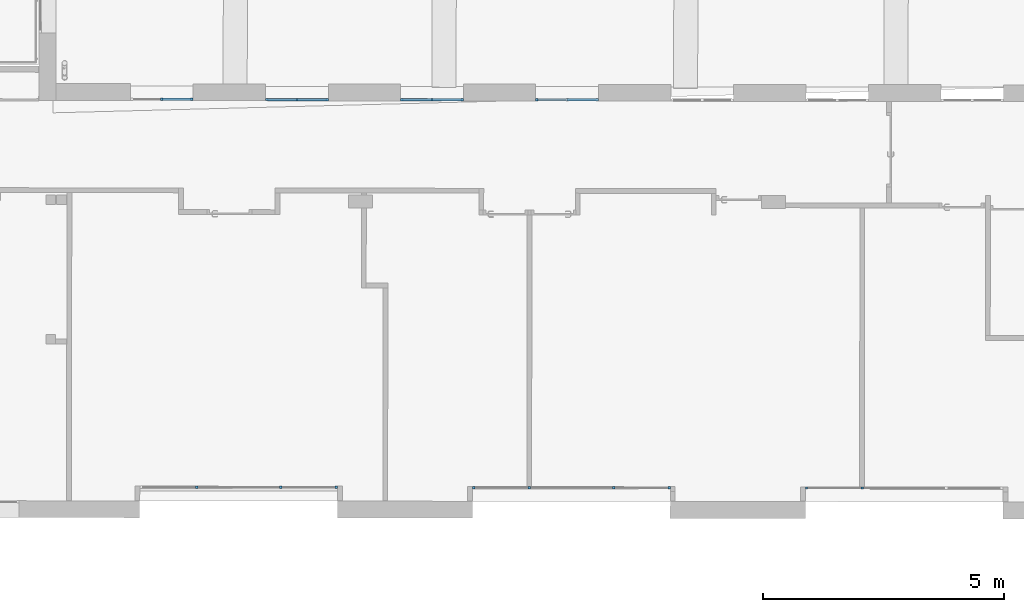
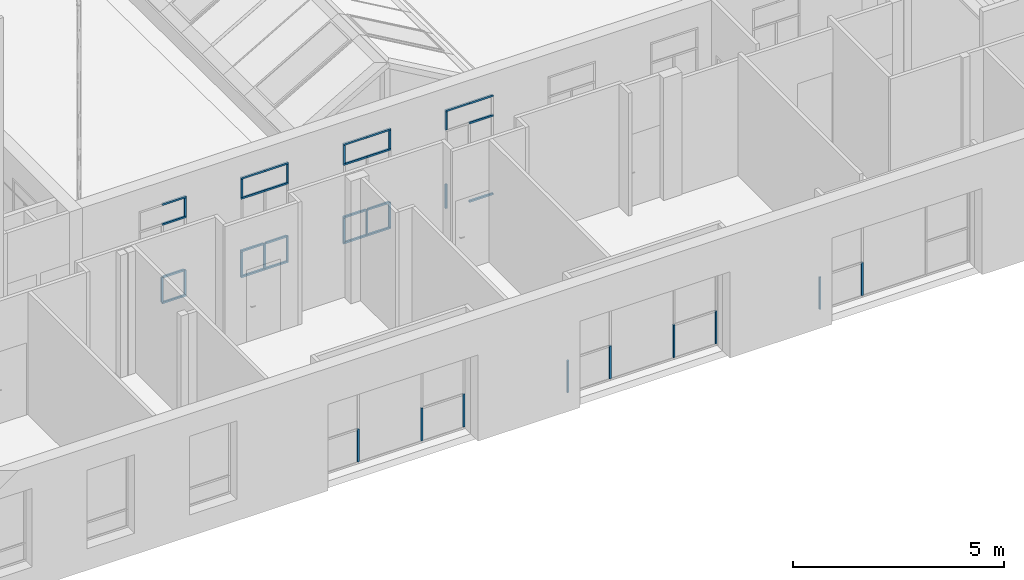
# One storey, part 22 of 101: 48 members, 7 elements without a shape of their own.
"""IFC2X3 building model written with IfcOpenShell, lengths in metres."""

import ifcopenshell
import ifcopenshell.guid

model = None  # the IFC model being written
_history = None  # IfcOwnerHistory: only IFC2X3 demands one
_inside = {}  # id of a spatial element -> (the spatial element, [elements in it])
_under = {}  # id of a project, library or spatial element -> (it, [spatial elements below it])
_declared = {}  # id of a project -> (the project, [libraries it declares])
_typed = {}  # id of a type object -> (the type object, [elements of that type])
_made_of = {}  # id of a material, layer set ... -> (it, [elements and type objects made of it])


def new_model(schema):
    """Start an empty IFC model of exactly this schema.

    Asked for "IFC4X3", IfcOpenShell would pick the latest addendum, in which some entities
    have other attributes; the version numbers below select the first issue.
    IFC2X3 requires an IfcOwnerHistory on every rooted entity: one is made here for all.
    """
    global model, _history
    if schema == "IFC4X3":
        model = ifcopenshell.file(schema_version=(4, 3, 0, 0))
    else:
        model = ifcopenshell.file(schema=schema)
    _inside.clear()
    _under.clear()
    _declared.clear()
    _typed.clear()
    _made_of.clear()
    _history = None
    if model.schema == "IFC2X3":
        org = make("IfcOrganization", Name="unknown")
        user = make(
            "IfcPersonAndOrganization",
            ThePerson=make("IfcPerson", FamilyName="unknown"),
            TheOrganization=org,
        )
        app = make(
            "IfcApplication",
            ApplicationDeveloper=org,
            Version="unknown",
            ApplicationFullName="unknown",
            ApplicationIdentifier="unknown",
        )
        _history = make(
            "IfcOwnerHistory",
            OwningUser=user,
            OwningApplication=app,
            ChangeAction="ADDED",
            CreationDate=0,
        )
    return model


def make(cls, **values):
    """One entity of the class cls with the attributes given. An attribute that is None is left unset."""
    return model.create_entity(
        cls, **{name: value for name, value in values.items() if value is not None}
    )


def entity(cls, *values):
    """Any entity or typed value of the class cls, its attributes in the order of the schema. None: left unset."""
    e = model.create_entity(cls)
    for i, value in enumerate(values):
        if value is not None:
            e[i] = value
    return e


def rooted(cls, **values):
    """An entity with a GlobalId (a new one), such as an element, a storey or a relation."""
    return make(cls, GlobalId=ifcopenshell.guid.new(), OwnerHistory=_history, **values)


def si_unit(unit_type, name, prefix=None):
    """IfcSIUnit, for example si_unit("LENGTHUNIT", "METRE", prefix="MILLI")."""
    return make("IfcSIUnit", UnitType=unit_type, Prefix=prefix, Name=name)


def converted_unit(unit_type, name, factor, base, dimensions=None, offset=None):
    """IfcConversionBasedUnit, such as the inch: factor (a typed value) times the base unit."""
    return make(
        "IfcConversionBasedUnit"
        if offset is None
        else "IfcConversionBasedUnitWithOffset",
        ConversionOffset=offset,
        Dimensions=None
        if dimensions is None
        else entity("IfcDimensionalExponents", *dimensions),
        UnitType=unit_type,
        Name=name,
        ConversionFactor=make(
            "IfcMeasureWithUnit", ValueComponent=factor, UnitComponent=base
        ),
    )


def derived_unit(unit_type, elements):
    """IfcDerivedUnit: a product of units, each with its exponent."""
    return make(
        "IfcDerivedUnit",
        Elements=[
            make("IfcDerivedUnitElement", Unit=unit, Exponent=power)
            for unit, power in elements
        ],
        UnitType=unit_type,
    )


def assignment(units):
    """IfcUnitAssignment: the units of a project."""
    return None if units is None else make("IfcUnitAssignment", Units=units)


def point(xyz):
    """IfcCartesianPoint."""
    return None if xyz is None else make("IfcCartesianPoint", Coordinates=xyz)


def direction(xyz):
    """IfcDirection."""
    return None if xyz is None else make("IfcDirection", DirectionRatios=xyz)


def frame(location, z_axis=None, x_axis=None):
    """IfcAxis2Placement3D, a coordinate frame: its origin and axes. An axis left out is left unset."""
    return make(
        "IfcAxis2Placement3D",
        Location=point(location),
        Axis=direction(z_axis),
        RefDirection=direction(x_axis),
    )


def frame_2d(location, x_axis=None):
    """IfcAxis2Placement2D, a coordinate frame in the plane: its origin and x axis."""
    return make(
        "IfcAxis2Placement2D", Location=point(location), RefDirection=direction(x_axis)
    )


def origin():
    """The frame at (0, 0, 0) with its axes left unset."""
    return frame((0.0, 0.0, 0.0))


def origin_2d_with_axis():
    """The frame at (0, 0) in the plane with the x axis (1, 0) written out."""
    return frame_2d((0.0, 0.0), x_axis=(1.0, 0.0))


def place(relative_to, where):
    """IfcLocalPlacement: puts the frame where relative to a parent placement (None: the world)."""
    return make(
        "IfcLocalPlacement", PlacementRelTo=relative_to, RelativePlacement=where
    )


def context(
    kind, dimensions, precision=None, world=None, true_north=None, identifier=None
):
    """IfcGeometricRepresentationContext, for example the 3D "Model" context."""
    return make(
        "IfcGeometricRepresentationContext",
        ContextIdentifier=identifier,
        ContextType=kind,
        CoordinateSpaceDimension=dimensions,
        Precision=precision,
        WorldCoordinateSystem=world,
        TrueNorth=true_north,
    )


def subcontext(parent, identifier, kind, view, scale=None):
    """IfcGeometricRepresentationSubContext, for example "Body" below "Model"."""
    return make(
        "IfcGeometricRepresentationSubContext",
        ContextIdentifier=identifier,
        ContextType=kind,
        ParentContext=parent,
        TargetScale=scale,
        TargetView=view,
    )


def project(units=None, contexts=None):
    """IfcProject with its units and contexts."""
    return rooted(
        "IfcProject",
        Name="project",
        RepresentationContexts=contexts,
        UnitsInContext=assignment(units),
    )


def spatial(cls, under=None, at=None, **own):
    """A site, building, storey or space (cls), placed at a placement, below another one or the project."""
    s = rooted(cls, ObjectPlacement=at, **own)
    if under is not None:
        _under.setdefault(under.id(), (under, []))[1].append(s)
    return s


def profile(cls, at=None, kind="AREA", **sizes):
    """A parametric profile (cls). Its sizes go by their IFC names, for example OverallWidth=200.0."""
    return make(cls, ProfileType=kind, Position=at, **sizes)


def rectangle(**sizes):
    """IfcRectangleProfileDef."""
    return profile("IfcRectangleProfileDef", **sizes)


def extrude(swept, where, along, depth):
    """IfcExtrudedAreaSolid: the profile swept, set in the frame where, extruded along a direction by depth."""
    return make(
        "IfcExtrudedAreaSolid",
        SweptArea=swept,
        Position=where,
        ExtrudedDirection=direction(along),
        Depth=depth,
    )


def shape(context_of_items, identifier, shape_type, items):
    """IfcShapeRepresentation: the items that make up one representation, for example the "Body"."""
    return make(
        "IfcShapeRepresentation",
        ContextOfItems=context_of_items,
        RepresentationIdentifier=identifier,
        RepresentationType=shape_type,
        Items=items,
    )


def source(mapping_origin, context_of_items, identifier, shape_type, items):
    """IfcRepresentationMap: a shape defined once, which mapped items show again and again."""
    return make(
        "IfcRepresentationMap",
        MappingOrigin=mapping_origin,
        MappedRepresentation=shape(context_of_items, identifier, shape_type, items),
    )


def transform(
    local_origin,
    x_axis=None,
    y_axis=None,
    z_axis=None,
    scale=None,
    scale2=None,
    scale3=None,
    uniform=True,
):
    """IfcCartesianTransformationOperator3D, or its non-uniform kind. x_axis, y_axis, z_axis: its Axis1, 2, 3."""
    if uniform:
        return make(
            "IfcCartesianTransformationOperator3D",
            Axis1=direction(x_axis),
            Axis2=direction(y_axis),
            LocalOrigin=point(local_origin),
            Scale=scale,
            Axis3=direction(z_axis),
        )
    return make(
        "IfcCartesianTransformationOperator3DnonUniform",
        Axis1=direction(x_axis),
        Axis2=direction(y_axis),
        LocalOrigin=point(local_origin),
        Scale=scale,
        Axis3=direction(z_axis),
        Scale2=scale2,
        Scale3=scale3,
    )


def mapped(mapping_source, mapping_target):
    """IfcMappedItem: shows the shape of a source again, moved by a transform."""
    return make(
        "IfcMappedItem", MappingSource=mapping_source, MappingTarget=mapping_target
    )


def material(Name=None, Category=None):
    """IfcMaterial."""
    return make("IfcMaterial", Name=Name, Category=Category)


def made_of(thing, what):
    """Note that an element or type object is made of a material, layer set ...; save() writes the relation."""
    if what is not None:
        _made_of.setdefault(what.id(), (what, []))[1].append(thing)
    return thing


def type_object(cls, material=None, **own):
    """A type object (cls), such as IfcWallType, which elements share."""
    return made_of(rooted(cls, **own), material)


def type_shapes(of_type, sources):
    """Give a type object the sources (RepresentationMaps) that its elements show as mapped items."""
    of_type.RepresentationMaps = sources


def element(
    cls,
    number,
    at=None,
    inside=None,
    cuts=None,
    type_object=None,
    material=None,
    context=None,
    identifier="Body",
    shape_type=None,
    held_by="IfcProductDefinitionShape",
    body=None,
    shapes=None,
    **own,
):
    """One element of the class cls, such as IfcWall. Its Tag is "e" and its number.

    at: its placement. inside: the storey or other place that contains it. cuts: it is an
    opening in that element (IfcRelVoidsElement). A single representation is given by context,
    identifier, shape_type and body (its items); several are given by shapes. held_by: the class
    of the entity that holds the representations. save() writes the other relations.
    """
    e = rooted(cls, Tag="e%d" % number, ObjectPlacement=at, **own)
    if body is not None:
        shapes = [shape(context, identifier, shape_type, body)]
    if shapes is not None:
        e.Representation = make(held_by, Representations=shapes)
    if inside is not None:
        _inside.setdefault(inside.id(), (inside, []))[1].append(e)
    if cuts is not None:
        rooted(
            "IfcRelVoidsElement", RelatingBuildingElement=cuts, RelatedOpeningElement=e
        )
    if type_object is not None:
        _typed.setdefault(type_object.id(), (type_object, []))[1].append(e)
    return made_of(e, material)


def aggregate(whole, parts):
    """IfcRelAggregates: a whole, such as a stair, and the parts it consists of."""
    return rooted("IfcRelAggregates", RelatingObject=whole, RelatedObjects=parts)


def save(model, path):
    """Write the relations noted so far, then the file.

    IfcRelAggregates (storeys below a building ...), IfcRelContainedInSpatialStructure (elements
    in a storey), IfcRelDefinesByType, IfcRelAssociatesMaterial and IfcRelDeclares: one each for
    every whole, place, type object, material and project.
    """
    for whole, parts in _under.values():
        aggregate(whole, parts)
    for where, things in _inside.values():
        rooted(
            "IfcRelContainedInSpatialStructure",
            RelatedElements=things,
            RelatingStructure=where,
        )
    for kind, things in _typed.values():
        rooted("IfcRelDefinesByType", RelatedObjects=things, RelatingType=kind)
    for what, things in _made_of.values():
        rooted("IfcRelAssociatesMaterial", RelatedObjects=things, RelatingMaterial=what)
    for by, libraries in _declared.values():
        rooted("IfcRelDeclares", RelatingContext=by, RelatedDefinitions=libraries)
    model.write(path)


model = new_model("IFC2X3")

# Units and contexts
model_context = context("Model", 3, precision=1e-05, world=origin(), true_north=direction((6.123233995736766e-17, 1.0)))
body_context = subcontext(model_context, "Body", "Model", "MODEL_VIEW")
ifc_project = project(units=[si_unit("LENGTHUNIT", "METRE"), si_unit("AREAUNIT", "SQUARE_METRE"), converted_unit("PLANEANGLEUNIT", "DEGREE", entity("IfcPlaneAngleMeasure", 0.017453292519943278), si_unit("PLANEANGLEUNIT", "RADIAN"), dimensions=[0, 0, 0, 0, 0, 0, 0]), derived_unit("THERMALTRANSMITTANCEUNIT", [(si_unit("MASSUNIT", "GRAM", prefix="KILO"), 1), (si_unit("THERMODYNAMICTEMPERATUREUNIT", "KELVIN"), -1), (si_unit("TIMEUNIT", "SECOND"), -3)])], contexts=[model_context])

# Site, building, storey
site_placement = place(None, frame((1253.6752467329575, 2072.143113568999, 91.49999999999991), z_axis=(0.0, 0.0, 1.0), x_axis=(0.7237211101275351, 0.6900925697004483, 0.0)))
site = spatial("IfcSite", under=ifc_project, at=site_placement, Name="Surface", CompositionType="ELEMENT")
building_placement = place(site_placement, origin())
building = spatial("IfcBuilding", under=site, at=building_placement, CompositionType="ELEMENT")
storey_placement = place(building_placement, origin())
storey = spatial("IfcBuildingStorey", under=building, at=storey_placement, Name="0- Rdc", CompositionType="ELEMENT", Elevation=-5.764692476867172e-13)

# Curtain wall, member
curtain_wall_type_1 = type_object("IfcCurtainWallType", Name="Mur-rideau:Menuiserie Ext 2OF+1F VERTIC", PredefinedType="NOTDEFINED")
curtain_wall_1_placement = place(storey_placement, origin())
curtain_wall_1 = element("IfcCurtainWall", 1, at=curtain_wall_1_placement, inside=storey, type_object=curtain_wall_type_1, Name="Mur-rideau:Menuiserie Ext 2OF+1F VERTIC", ObjectType="Mur-rideau:Menuiserie Ext 2OF+1F VERTIC")
ifc_material = material(Name="OMD_Aluminium Men Ext")
member_type_1 = type_object("IfcMemberType", Name="Meneau rectangulaire:50x50", PredefinedType="MULLION", material=ifc_material)
shared_shape_1 = source(origin(), body_context, "Body", "SweptSolid", [
    extrude(rectangle(XDim=0.05, YDim=0.05, at=origin_2d_with_axis()), frame((0.0, 0.0, -0.5748479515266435), z_axis=(0.0, 0.0, 1.0), x_axis=(-1.0, 0.0, 0.0)), (0.0, 0.0, 1.0), 0.5748479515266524),
])
type_shapes(member_type_1, [shared_shape_1])
member_1_placement = place(curtain_wall_1_placement, frame((161.4578840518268, -0.6715224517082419, 0.7666666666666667), z_axis=(-0.7228702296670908, 0.6909838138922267, 0.0), x_axis=(0.0, 0.0, 1.0)))
member_1 = element("IfcMember", 2, at=member_1_placement, type_object=member_type_1, material=ifc_material, Name="Meneau rectangulaire:50x50", ObjectType="Meneau rectangulaire:50x50", context=body_context, shape_type="MappedRepresentation", body=[
    mapped(shared_shape_1, transform((0.0, 0.0, 0.0), scale=1.0)),
])

curtain_wall_2_placement = place(storey_placement, origin())
curtain_wall_2 = element("IfcCurtainWall", 3, at=curtain_wall_2_placement, inside=storey, type_object=curtain_wall_type_1, Name="Mur-rideau:Menuiserie Ext 2OF+1F VERTIC", ObjectType="Mur-rideau:Menuiserie Ext 2OF+1F VERTIC")
member_2_placement = place(curtain_wall_2_placement, frame((163.4844483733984, -2.6086933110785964, 0.7666666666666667), z_axis=(-0.7228702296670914, 0.6909838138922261, 0.0), x_axis=(0.0, 0.0, 1.0)))
member_2 = element("IfcMember", 4, at=member_2_placement, type_object=member_type_1, material=ifc_material, Name="Meneau rectangulaire:50x50", ObjectType="Meneau rectangulaire:50x50", context=body_context, shape_type="MappedRepresentation", body=[
    mapped(shared_shape_1, transform((0.0, 0.0, 0.0), scale=1.0)),
])

curtain_wall_3_placement = place(storey_placement, origin())
curtain_wall_3 = element("IfcCurtainWall", 5, at=curtain_wall_3_placement, inside=storey, type_object=curtain_wall_type_1, Name="Mur-rideau:Menuiserie Ext 2OF+1F VERTIC", ObjectType="Mur-rideau:Menuiserie Ext 2OF+1F VERTIC")
member_3_placement = place(curtain_wall_3_placement, frame((165.50848501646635, -4.5434479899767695, 0.7666666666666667), z_axis=(-0.722870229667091, 0.6909838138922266, 0.0), x_axis=(0.0, 0.0, 1.0)))
member_3 = element("IfcMember", 6, at=member_3_placement, type_object=member_type_1, material=ifc_material, Name="Meneau rectangulaire:50x50", ObjectType="Meneau rectangulaire:50x50", context=body_context, shape_type="MappedRepresentation", body=[
    mapped(shared_shape_1, transform((0.0, 0.0, 0.0), scale=1.0)),
])

# Member
member_type_2 = type_object("IfcMemberType", Name="Meneau rectangulaire:50x50", PredefinedType="MULLION", material=ifc_material)
shared_shape_2 = source(origin(), body_context, "Body", "SweptSolid", [
    extrude(rectangle(XDim=0.05, YDim=0.05, at=origin_2d_with_axis()), frame((-0.025, 0.0, -0.649847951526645), z_axis=(0.0, 0.0, 1.0), x_axis=(-1.0, 0.0, 0.0)), (0.0, 0.0, 1.0), 0.6498479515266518),
])
type_shapes(member_type_2, [shared_shape_2])
member_4_placement = place(curtain_wall_2_placement, frame((162.99662087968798, -2.1423842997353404, 2.8999999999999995), z_axis=(-0.7228702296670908, 0.6909838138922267, 0.0), x_axis=(0.0, 0.0, 1.0)))
member_4 = element("IfcMember", 7, at=member_4_placement, type_object=member_type_2, material=ifc_material, Name="Meneau rectangulaire:50x50", ObjectType="Meneau rectangulaire:50x50", context=body_context, shape_type="MappedRepresentation", body=[
    mapped(shared_shape_2, transform((0.0, 0.0, 0.0), scale=1.0)),
])

member_5_placement = place(curtain_wall_3_placement, frame((165.0206575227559, -4.077138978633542, 2.8999999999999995), z_axis=(-0.722870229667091, 0.6909838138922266, 0.0), x_axis=(0.0, 0.0, 1.0)))
member_5 = element("IfcMember", 8, at=member_5_placement, type_object=member_type_2, material=ifc_material, Name="Meneau rectangulaire:50x50", ObjectType="Meneau rectangulaire:50x50", context=body_context, shape_type="MappedRepresentation", body=[
    mapped(shared_shape_2, transform((0.0, 0.0, 0.0), scale=1.0)),
])

# Curtain wall, member
curtain_wall_4_placement = place(storey_placement, origin())
curtain_wall_4 = element("IfcCurtainWall", 9, at=curtain_wall_4_placement, inside=storey, type_object=curtain_wall_type_1, Name="Mur-rideau:Menuiserie Ext 2OF+1F VERTIC", ObjectType="Mur-rideau:Menuiserie Ext 2OF+1F VERTIC")
member_6_placement = place(curtain_wall_4_placement, frame((167.04469416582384, -6.011893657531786, 2.8999999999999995), z_axis=(-0.7228702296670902, 0.6909838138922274, 0.0), x_axis=(0.0, 0.0, 1.0)))
member_6 = element("IfcMember", 10, at=member_6_placement, type_object=member_type_2, material=ifc_material, Name="Meneau rectangulaire:50x50", ObjectType="Meneau rectangulaire:50x50", context=body_context, shape_type="MappedRepresentation", body=[
    mapped(shared_shape_2, transform((0.0, 0.0, 0.0), scale=1.0)),
])

# Member
member_type_3 = type_object("IfcMemberType", Name="Meneau rectangulaire:50x50", PredefinedType="MULLION", material=ifc_material)
shared_shape_3 = source(origin(), body_context, "Body", "SweptSolid", [
    extrude(rectangle(XDim=0.05, YDim=0.05, at=origin_2d_with_axis()), frame((-0.025, 0.0, -0.6498479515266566), z_axis=(0.0, 0.0, 1.0), x_axis=(-1.0, 0.0, 0.0)), (0.0, 0.0, 1.0), 0.6498479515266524),
])
type_shapes(member_type_3, [shared_shape_3])
member_7_placement = place(curtain_wall_1_placement, frame((161.9095680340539, -1.1032822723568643, 0.0), z_axis=(0.7228702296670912, -0.6909838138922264, 0.0), x_axis=(0.0, 0.0, -1.0)))
member_7 = element("IfcMember", 11, at=member_7_placement, type_object=member_type_3, material=ifc_material, Name="Meneau rectangulaire:50x50", ObjectType="Meneau rectangulaire:50x50", context=body_context, shape_type="MappedRepresentation", body=[
    mapped(shared_shape_3, transform((0.0, 0.0, 0.0), scale=1.0)),
])

member_8_placement = place(curtain_wall_2_placement, frame((163.9361323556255, -3.0404531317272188, 0.0), z_axis=(0.7228702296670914, -0.6909838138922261, 0.0), x_axis=(0.0, 0.0, -1.0)))
member_8 = element("IfcMember", 12, at=member_8_placement, type_object=member_type_3, material=ifc_material, Name="Meneau rectangulaire:50x50", ObjectType="Meneau rectangulaire:50x50", context=body_context, shape_type="MappedRepresentation", body=[
    mapped(shared_shape_3, transform((0.0, 0.0, 0.0), scale=1.0)),
])

member_9_placement = place(curtain_wall_3_placement, frame((165.9601689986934, -4.975207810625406, 0.0), z_axis=(0.722870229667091, -0.6909838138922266, 0.0), x_axis=(0.0, 0.0, -1.0)))
member_9 = element("IfcMember", 13, at=member_9_placement, type_object=member_type_3, material=ifc_material, Name="Meneau rectangulaire:50x50", ObjectType="Meneau rectangulaire:50x50", context=body_context, shape_type="MappedRepresentation", body=[
    mapped(shared_shape_3, transform((0.0, 0.0, 0.0), scale=1.0)),
])

member_10_placement = place(curtain_wall_4_placement, frame((167.98420564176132, -6.90996248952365, 0.0), z_axis=(0.7228702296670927, -0.6909838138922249, 0.0), x_axis=(0.0, 0.0, -1.0)))
member_10 = element("IfcMember", 14, at=member_10_placement, type_object=member_type_3, material=ifc_material, Name="Meneau rectangulaire:50x50", ObjectType="Meneau rectangulaire:50x50", context=body_context, shape_type="MappedRepresentation", body=[
    mapped(shared_shape_3, transform((0.0, 0.0, 0.0), scale=1.0)),
])

member_type_4 = type_object("IfcMemberType", Name="Meneau rectangulaire:50x50", PredefinedType="MULLION", material=ifc_material)
shared_shape_4 = source(origin(), body_context, "Body", "SweptSolid", [
    extrude(rectangle(XDim=0.05, YDim=0.049999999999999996, at=origin_2d_with_axis()), frame((-0.025, 0.0, -0.6916666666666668), z_axis=(0.0, 0.0, 1.0), x_axis=(-1.0, 0.0, 0.0)), (0.0, 0.0, 1.0), 0.6916666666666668),
])
type_shapes(member_type_4, [shared_shape_4])
member_11_placement = place(curtain_wall_2_placement, frame((162.99662087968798, -2.1423842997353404, 0.05), z_axis=(0.0, 0.0, -1.0), x_axis=(-0.7228702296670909, 0.6909838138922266, 0.0)))
member_11 = element("IfcMember", 15, at=member_11_placement, type_object=member_type_4, material=ifc_material, Name="Meneau rectangulaire:50x50", ObjectType="Meneau rectangulaire:50x50", context=body_context, shape_type="MappedRepresentation", body=[
    mapped(shared_shape_4, transform((0.0, 0.0, 0.0), scale=1.0)),
])

member_12_placement = place(curtain_wall_3_placement, frame((165.02065752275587, -4.077138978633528, 0.05), z_axis=(0.0, 0.0, -1.0), x_axis=(-0.7228702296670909, 0.6909838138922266, 0.0)))
member_12 = element("IfcMember", 16, at=member_12_placement, type_object=member_type_4, material=ifc_material, Name="Meneau rectangulaire:50x50", ObjectType="Meneau rectangulaire:50x50", context=body_context, shape_type="MappedRepresentation", body=[
    mapped(shared_shape_4, transform((0.0, 0.0, 0.0), scale=1.0)),
])

member_13_placement = place(curtain_wall_4_placement, frame((167.0446941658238, -6.011893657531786, 0.05), z_axis=(0.0, 0.0, -1.0), x_axis=(-0.7228702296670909, 0.6909838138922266, 0.0)))
member_13 = element("IfcMember", 17, at=member_13_placement, type_object=member_type_4, material=ifc_material, Name="Meneau rectangulaire:50x50", ObjectType="Meneau rectangulaire:50x50", context=body_context, shape_type="MappedRepresentation", body=[
    mapped(shared_shape_4, transform((0.0, 0.0, 0.0), scale=1.0)),
])

member_type_5 = type_object("IfcMemberType", Name="Meneau rectangulaire:50x50", PredefinedType="MULLION", material=ifc_material)
shared_shape_5 = source(origin(), body_context, "Body", "SweptSolid", [
    extrude(rectangle(XDim=0.05, YDim=0.049999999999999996, at=origin_2d_with_axis()), frame((-0.025, 0.0, -0.5249999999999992), z_axis=(0.0, 0.0, 1.0), x_axis=(-1.0, 0.0, 0.0)), (0.0, 0.0, 1.0), 0.5249999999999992),
])
type_shapes(member_type_5, [shared_shape_5])
member_14_placement = place(curtain_wall_1_placement, frame((161.9095680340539, -1.1032822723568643, 2.8499999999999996), z_axis=(0.0, 0.0, 1.0), x_axis=(0.7228702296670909, -0.6909838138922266, 0.0)))
member_14 = element("IfcMember", 18, at=member_14_placement, type_object=member_type_5, material=ifc_material, Name="Meneau rectangulaire:50x50", ObjectType="Meneau rectangulaire:50x50", context=body_context, shape_type="MappedRepresentation", body=[
    mapped(shared_shape_5, transform((0.0, 0.0, 0.0), scale=1.0)),
])

member_15_placement = place(curtain_wall_2_placement, frame((163.93613235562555, -3.0404531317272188, 2.8499999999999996), z_axis=(0.0, 0.0, 1.0), x_axis=(0.7228702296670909, -0.6909838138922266, 0.0)))
member_15 = element("IfcMember", 19, at=member_15_placement, type_object=member_type_5, material=ifc_material, Name="Meneau rectangulaire:50x50", ObjectType="Meneau rectangulaire:50x50", context=body_context, shape_type="MappedRepresentation", body=[
    mapped(shared_shape_5, transform((0.0, 0.0, 0.0), scale=1.0)),
])

member_16_placement = place(curtain_wall_3_placement, frame((165.9601689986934, -4.975207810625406, 2.8499999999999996), z_axis=(0.0, 0.0, 1.0), x_axis=(0.7228702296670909, -0.6909838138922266, 0.0)))
member_16 = element("IfcMember", 20, at=member_16_placement, type_object=member_type_5, material=ifc_material, Name="Meneau rectangulaire:50x50", ObjectType="Meneau rectangulaire:50x50", context=body_context, shape_type="MappedRepresentation", body=[
    mapped(shared_shape_5, transform((0.0, 0.0, 0.0), scale=1.0)),
])

member_type_6 = type_object("IfcMemberType", Name="Meneau rectangulaire:50x50", PredefinedType="MULLION", material=ifc_material)
shared_shape_6 = source(origin(), body_context, "Body", "SweptSolid", [
    extrude(rectangle(XDim=0.05, YDim=0.05, at=origin_2d_with_axis()), frame((-0.025, 0.0, -0.5249999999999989), z_axis=(0.0, 0.0, 1.0), x_axis=(-1.0, 0.0, 0.0)), (0.0, 0.0, 1.0), 0.5249999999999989),
])
type_shapes(member_type_6, [shared_shape_6])
member_17_placement = place(curtain_wall_2_placement, frame((162.99662087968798, -2.1423842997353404, 2.3250000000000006), z_axis=(0.0, 0.0, -1.0), x_axis=(-0.7228702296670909, 0.6909838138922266, 0.0)))
member_17 = element("IfcMember", 21, at=member_17_placement, type_object=member_type_6, material=ifc_material, Name="Meneau rectangulaire:50x50", ObjectType="Meneau rectangulaire:50x50", context=body_context, shape_type="MappedRepresentation", body=[
    mapped(shared_shape_6, transform((0.0, 0.0, 0.0), scale=1.0)),
])

member_18_placement = place(curtain_wall_3_placement, frame((165.02065752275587, -4.077138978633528, 2.325), z_axis=(0.0, 0.0, -1.0), x_axis=(-0.7228702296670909, 0.6909838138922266, 0.0)))
member_18 = element("IfcMember", 22, at=member_18_placement, type_object=member_type_6, material=ifc_material, Name="Meneau rectangulaire:50x50", ObjectType="Meneau rectangulaire:50x50", context=body_context, shape_type="MappedRepresentation", body=[
    mapped(shared_shape_6, transform((0.0, 0.0, 0.0), scale=1.0)),
])

member_19_placement = place(curtain_wall_4_placement, frame((167.0446941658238, -6.011893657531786, 2.325), z_axis=(0.0, 0.0, -1.0), x_axis=(-0.7228702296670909, 0.6909838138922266, 0.0)))
member_19 = element("IfcMember", 23, at=member_19_placement, type_object=member_type_6, material=ifc_material, Name="Meneau rectangulaire:50x50", ObjectType="Meneau rectangulaire:50x50", context=body_context, shape_type="MappedRepresentation", body=[
    mapped(shared_shape_6, transform((0.0, 0.0, 0.0), scale=1.0)),
])

member_type_7 = type_object("IfcMemberType", Name="Meneau rectangulaire:50x50", PredefinedType="MULLION", material=ifc_material)
shared_shape_7 = source(origin(), body_context, "Body", "SweptSolid", [
    extrude(rectangle(XDim=0.05, YDim=0.05, at=origin_2d_with_axis()), frame((0.0, 0.0, -0.6498479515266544), z_axis=(0.0, 0.0, 1.0), x_axis=(-1.0, 0.0, 0.0)), (0.0, 0.0, 1.0), 0.6498479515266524),
])
type_shapes(member_type_7, [shared_shape_7])
member_20_placement = place(curtain_wall_1_placement, frame((161.4398122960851, -0.6542478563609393, 2.3000000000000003), z_axis=(-0.7228702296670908, 0.6909838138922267, 0.0), x_axis=(0.0, 0.0, 1.0)))
member_20 = element("IfcMember", 24, at=member_20_placement, type_object=member_type_7, material=ifc_material, Name="Meneau rectangulaire:50x50", ObjectType="Meneau rectangulaire:50x50", context=body_context, shape_type="MappedRepresentation", body=[
    mapped(shared_shape_7, transform((0.0, 0.0, 0.0), scale=1.0)),
])

member_21_placement = place(curtain_wall_2_placement, frame((163.46637661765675, -2.5914187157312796, 2.3000000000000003), z_axis=(-0.7228702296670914, 0.6909838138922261, 0.0), x_axis=(0.0, 0.0, 1.0)))
member_21 = element("IfcMember", 25, at=member_21_placement, type_object=member_type_7, material=ifc_material, Name="Meneau rectangulaire:50x50", ObjectType="Meneau rectangulaire:50x50", context=body_context, shape_type="MappedRepresentation", body=[
    mapped(shared_shape_7, transform((0.0, 0.0, 0.0), scale=1.0)),
])

member_22_placement = place(curtain_wall_3_placement, frame((165.49041326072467, -4.526173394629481, 2.3000000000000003), z_axis=(-0.722870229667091, 0.6909838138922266, 0.0), x_axis=(0.0, 0.0, 1.0)))
member_22 = element("IfcMember", 26, at=member_22_placement, type_object=member_type_7, material=ifc_material, Name="Meneau rectangulaire:50x50", ObjectType="Meneau rectangulaire:50x50", context=body_context, shape_type="MappedRepresentation", body=[
    mapped(shared_shape_7, transform((0.0, 0.0, 0.0), scale=1.0)),
])

member_23_placement = place(curtain_wall_4_placement, frame((167.51444990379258, -6.460928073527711, 2.3000000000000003), z_axis=(-0.7228702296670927, 0.6909838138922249, 0.0), x_axis=(0.0, 0.0, 1.0)))
member_23 = element("IfcMember", 27, at=member_23_placement, type_object=member_type_7, material=ifc_material, Name="Meneau rectangulaire:50x50", ObjectType="Meneau rectangulaire:50x50", context=body_context, shape_type="MappedRepresentation", body=[
    mapped(shared_shape_7, transform((0.0, 0.0, 0.0), scale=1.0)),
])

member_type_8 = type_object("IfcMemberType", Name="Meneau rectangulaire:50x50", PredefinedType="MULLION", material=ifc_material)
shared_shape_8 = source(origin(), body_context, "Body", "SweptSolid", [
    extrude(rectangle(XDim=0.05, YDim=0.049999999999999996, at=origin_2d_with_axis()), frame((-0.025, 0.0, -0.6498479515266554), z_axis=(0.0, 0.0, 1.0), x_axis=(-1.0, 0.0, 0.0)), (0.0, 0.0, 1.0), 0.6498479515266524),
])
type_shapes(member_type_8, [shared_shape_8])
member_24_placement = place(curtain_wall_1_placement, frame((161.4398122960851, -0.6542478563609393, 2.8999999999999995), z_axis=(-0.7228702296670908, 0.6909838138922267, 0.0), x_axis=(0.0, 0.0, 1.0)))
member_24 = element("IfcMember", 28, at=member_24_placement, type_object=member_type_8, material=ifc_material, Name="Meneau rectangulaire:50x50", ObjectType="Meneau rectangulaire:50x50", context=body_context, shape_type="MappedRepresentation", body=[
    mapped(shared_shape_8, transform((0.0, 0.0, 0.0), scale=1.0)),
])

member_25_placement = place(curtain_wall_2_placement, frame((163.46637661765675, -2.5914187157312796, 2.8999999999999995), z_axis=(-0.7228702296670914, 0.6909838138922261, 0.0), x_axis=(0.0, 0.0, 1.0)))
member_25 = element("IfcMember", 29, at=member_25_placement, type_object=member_type_8, material=ifc_material, Name="Meneau rectangulaire:50x50", ObjectType="Meneau rectangulaire:50x50", context=body_context, shape_type="MappedRepresentation", body=[
    mapped(shared_shape_8, transform((0.0, 0.0, 0.0), scale=1.0)),
])

member_26_placement = place(curtain_wall_3_placement, frame((165.49041326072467, -4.526173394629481, 2.8999999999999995), z_axis=(-0.722870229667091, 0.6909838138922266, 0.0), x_axis=(0.0, 0.0, 1.0)))
member_26 = element("IfcMember", 30, at=member_26_placement, type_object=member_type_8, material=ifc_material, Name="Meneau rectangulaire:50x50", ObjectType="Meneau rectangulaire:50x50", context=body_context, shape_type="MappedRepresentation", body=[
    mapped(shared_shape_8, transform((0.0, 0.0, 0.0), scale=1.0)),
])

member_27_placement = place(curtain_wall_4_placement, frame((167.51444990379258, -6.460928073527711, 2.8999999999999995), z_axis=(-0.7228702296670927, 0.6909838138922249, 0.0), x_axis=(0.0, 0.0, 1.0)))
member_27 = element("IfcMember", 31, at=member_27_placement, type_object=member_type_8, material=ifc_material, Name="Meneau rectangulaire:50x50", ObjectType="Meneau rectangulaire:50x50", context=body_context, shape_type="MappedRepresentation", body=[
    mapped(shared_shape_8, transform((0.0, 0.0, 0.0), scale=1.0)),
])

aggregate(curtain_wall_4, [member_6, member_10, member_13, member_19, member_23, member_27])

member_type_9 = type_object("IfcMemberType", Name="Meneau rectangulaire:50x50", PredefinedType="MULLION", material=ifc_material)
shared_shape_9 = source(origin(), body_context, "Body", "SweptSolid", [
    extrude(rectangle(XDim=0.05, YDim=0.05, at=origin_2d_with_axis()), frame((-0.025, 0.0, -0.6498479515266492), z_axis=(0.0, 0.0, 1.0), x_axis=(-1.0, 0.0, 0.0)), (0.0, 0.0, 1.0), 0.6498479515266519),
])
type_shapes(member_type_9, [shared_shape_9])
member_28_placement = place(curtain_wall_2_placement, frame((163.46637661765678, -2.591418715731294, 0.0), z_axis=(0.722870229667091, -0.6909838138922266, 0.0), x_axis=(0.0, 0.0, -1.0)))
member_28 = element("IfcMember", 32, at=member_28_placement, type_object=member_type_9, material=ifc_material, Name="Meneau rectangulaire:50x50", ObjectType="Meneau rectangulaire:50x50", context=body_context, shape_type="MappedRepresentation", body=[
    mapped(shared_shape_9, transform((0.0, 0.0, 0.0), scale=1.0)),
])

member_29_placement = place(curtain_wall_3_placement, frame((165.49041326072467, -4.526173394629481, 0.0), z_axis=(0.722870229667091, -0.6909838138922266, 0.0), x_axis=(0.0, 0.0, -1.0)))
member_29 = element("IfcMember", 33, at=member_29_placement, type_object=member_type_9, material=ifc_material, Name="Meneau rectangulaire:50x50", ObjectType="Meneau rectangulaire:50x50", context=body_context, shape_type="MappedRepresentation", body=[
    mapped(shared_shape_9, transform((0.0, 0.0, 0.0), scale=1.0)),
])

member_type_10 = type_object("IfcMemberType", Name="Meneau rectangulaire:50x50", PredefinedType="MULLION", material=ifc_material)
shared_shape_10 = source(origin(), body_context, "Body", "SweptSolid", [
    extrude(rectangle(XDim=0.05, YDim=0.05, at=origin_2d_with_axis()), frame((0.0, 0.0, -0.649847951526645), z_axis=(0.0, 0.0, 1.0), x_axis=(-1.0, 0.0, 0.0)), (0.0, 0.0, 1.0), 0.6498479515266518),
])
type_shapes(member_type_10, [shared_shape_10])
member_30_placement = place(curtain_wall_2_placement, frame((162.996620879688, -2.1423842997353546, 2.3000000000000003), z_axis=(-0.722870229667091, 0.6909838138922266, 0.0), x_axis=(0.0, 0.0, 1.0)))
member_30 = element("IfcMember", 34, at=member_30_placement, type_object=member_type_10, material=ifc_material, Name="Meneau rectangulaire:50x50", ObjectType="Meneau rectangulaire:50x50", context=body_context, shape_type="MappedRepresentation", body=[
    mapped(shared_shape_10, transform((0.0, 0.0, 0.0), scale=1.0)),
])

member_31_placement = place(curtain_wall_3_placement, frame((165.0206575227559, -4.077138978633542, 2.3000000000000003), z_axis=(-0.722870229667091, 0.6909838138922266, 0.0), x_axis=(0.0, 0.0, 1.0)))
member_31 = element("IfcMember", 35, at=member_31_placement, type_object=member_type_10, material=ifc_material, Name="Meneau rectangulaire:50x50", ObjectType="Meneau rectangulaire:50x50", context=body_context, shape_type="MappedRepresentation", body=[
    mapped(shared_shape_10, transform((0.0, 0.0, 0.0), scale=1.0)),
])

member_type_11 = type_object("IfcMemberType", Name="Meneau rectangulaire:50x50", PredefinedType="MULLION", material=ifc_material)
shared_shape_11 = source(origin(), body_context, "Body", "SweptSolid", [
    extrude(rectangle(XDim=0.05, YDim=0.05, at=frame_2d((0.0, 1.734723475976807e-18), x_axis=(1.0, 0.0))), frame((0.0, 0.0, -0.7166666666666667), z_axis=(0.0, 0.0, 1.0), x_axis=(-1.0, 0.0, 0.0)), (0.0, 0.0, 1.0), 0.7166666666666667),
])
type_shapes(member_type_11, [shared_shape_11])
member_32_placement = place(curtain_wall_1_placement, frame((161.4398122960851, -0.6542478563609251, 0.05), z_axis=(0.0, 0.0, -1.0), x_axis=(-0.7228702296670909, 0.6909838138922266, 0.0)))
member_32 = element("IfcMember", 36, at=member_32_placement, type_object=member_type_11, material=ifc_material, Name="Meneau rectangulaire:50x50", ObjectType="Meneau rectangulaire:50x50", context=body_context, shape_type="MappedRepresentation", body=[
    mapped(shared_shape_11, transform((0.0, 0.0, 0.0), scale=1.0)),
])

member_33_placement = place(curtain_wall_2_placement, frame((163.46637661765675, -2.5914187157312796, 0.05), z_axis=(0.0, 0.0, -1.0), x_axis=(-0.7228702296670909, 0.6909838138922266, 0.0)))
member_33 = element("IfcMember", 37, at=member_33_placement, type_object=member_type_11, material=ifc_material, Name="Meneau rectangulaire:50x50", ObjectType="Meneau rectangulaire:50x50", context=body_context, shape_type="MappedRepresentation", body=[
    mapped(shared_shape_11, transform((0.0, 0.0, 0.0), scale=1.0)),
])

member_34_placement = place(curtain_wall_3_placement, frame((165.49041326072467, -4.526173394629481, 0.05), z_axis=(0.0, 0.0, -1.0), x_axis=(-0.7228702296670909, 0.6909838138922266, 0.0)))
member_34 = element("IfcMember", 38, at=member_34_placement, type_object=member_type_11, material=ifc_material, Name="Meneau rectangulaire:50x50", ObjectType="Meneau rectangulaire:50x50", context=body_context, shape_type="MappedRepresentation", body=[
    mapped(shared_shape_11, transform((0.0, 0.0, 0.0), scale=1.0)),
])

member_type_12 = type_object("IfcMemberType", Name="Meneau rectangulaire:50x50", PredefinedType="MULLION", material=ifc_material)
shared_shape_12 = source(origin(), body_context, "Body", "SweptSolid", [
    extrude(rectangle(XDim=0.05, YDim=0.049999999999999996, at=origin_2d_with_axis()), frame((-0.025, 0.0, -0.7166666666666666), z_axis=(0.0, 0.0, 1.0), x_axis=(-1.0, 0.0, 0.0)), (0.0, 0.0, 1.0), 0.7166666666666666),
])
type_shapes(member_type_12, [shared_shape_12])
member_35_placement = place(curtain_wall_1_placement, frame((161.9095680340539, -1.1032822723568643, 0.7666666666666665), z_axis=(0.0, 0.0, 1.0), x_axis=(0.7228702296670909, -0.6909838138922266, 0.0)))
member_35 = element("IfcMember", 39, at=member_35_placement, type_object=member_type_12, material=ifc_material, Name="Meneau rectangulaire:50x50", ObjectType="Meneau rectangulaire:50x50", context=body_context, shape_type="MappedRepresentation", body=[
    mapped(shared_shape_12, transform((0.0, 0.0, 0.0), scale=1.0)),
])

aggregate(curtain_wall_1, [member_7, member_14, member_20, member_24, member_32, member_35, member_1])

member_36_placement = place(curtain_wall_2_placement, frame((163.93613235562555, -3.0404531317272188, 0.7666666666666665), z_axis=(0.0, 0.0, 1.0), x_axis=(0.7228702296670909, -0.6909838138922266, 0.0)))
member_36 = element("IfcMember", 40, at=member_36_placement, type_object=member_type_12, material=ifc_material, Name="Meneau rectangulaire:50x50", ObjectType="Meneau rectangulaire:50x50", context=body_context, shape_type="MappedRepresentation", body=[
    mapped(shared_shape_12, transform((0.0, 0.0, 0.0), scale=1.0)),
])

member_37_placement = place(curtain_wall_3_placement, frame((165.9601689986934, -4.975207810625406, 0.7666666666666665), z_axis=(0.0, 0.0, 1.0), x_axis=(0.7228702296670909, -0.6909838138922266, 0.0)))
member_37 = element("IfcMember", 41, at=member_37_placement, type_object=member_type_12, material=ifc_material, Name="Meneau rectangulaire:50x50", ObjectType="Meneau rectangulaire:50x50", context=body_context, shape_type="MappedRepresentation", body=[
    mapped(shared_shape_12, transform((0.0, 0.0, 0.0), scale=1.0)),
])

member_type_13 = type_object("IfcMemberType", Name="Meneau rectangulaire:50x50", PredefinedType="MULLION", material=ifc_material)
shared_shape_13 = source(origin(), body_context, "Body", "SweptSolid", [
    extrude(rectangle(XDim=0.05, YDim=0.05, at=origin_2d_with_axis()), frame((0.0, 0.0, -0.624847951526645), z_axis=(0.0, 0.0, 1.0), x_axis=(-1.0, 0.0, 0.0)), (0.0, 0.0, 1.0), 0.6248479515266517),
])
type_shapes(member_type_13, [shared_shape_13])
member_38_placement = place(curtain_wall_2_placement, frame((162.996620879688, -2.1423842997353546, 0.7666666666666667), z_axis=(-0.722870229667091, 0.6909838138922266, 0.0), x_axis=(0.0, 0.0, 1.0)))
member_38 = element("IfcMember", 42, at=member_38_placement, type_object=member_type_13, material=ifc_material, Name="Meneau rectangulaire:50x50", ObjectType="Meneau rectangulaire:50x50", context=body_context, shape_type="MappedRepresentation", body=[
    mapped(shared_shape_13, transform((0.0, 0.0, 0.0), scale=1.0)),
])

aggregate(curtain_wall_2, [member_4, member_8, member_11, member_15, member_17, member_21, member_25, member_28, member_30, member_33, member_36, member_38, member_2])

member_39_placement = place(curtain_wall_3_placement, frame((165.0206575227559, -4.077138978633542, 0.7666666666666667), z_axis=(-0.722870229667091, 0.6909838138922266, 0.0), x_axis=(0.0, 0.0, 1.0)))
member_39 = element("IfcMember", 43, at=member_39_placement, type_object=member_type_13, material=ifc_material, Name="Meneau rectangulaire:50x50", ObjectType="Meneau rectangulaire:50x50", context=body_context, shape_type="MappedRepresentation", body=[
    mapped(shared_shape_13, transform((0.0, 0.0, 0.0), scale=1.0)),
])

aggregate(curtain_wall_3, [member_5, member_9, member_12, member_16, member_18, member_22, member_26, member_29, member_31, member_34, member_37, member_39, member_3])

# Curtain wall, member
curtain_wall_type_2 = type_object("IfcCurtainWallType", Name="Mur-rideau:Menuiserie Ext 1F+1OB VERTIC", PredefinedType="NOTDEFINED")
curtain_wall_5_placement = place(storey_placement, origin())
curtain_wall_5 = element("IfcCurtainWall", 44, at=curtain_wall_5_placement, inside=storey, type_object=curtain_wall_type_2, Name="Mur-rideau:Menuiserie Ext 1F+1OB VERTIC", ObjectType="Mur-rideau:Menuiserie Ext 1F+1OB VERTIC")
member_type_14 = type_object("IfcMemberType", Name="Meneau rectangulaire:50x50", PredefinedType="MULLION", material=ifc_material)
shared_shape_14 = source(origin(), body_context, "Body", "SweptSolid", [
    extrude(rectangle(XDim=0.05, YDim=0.049999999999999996, at=origin_2d_with_axis()), frame((-0.025, 0.0, -0.9249999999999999), z_axis=(0.0, 0.0, 1.0), x_axis=(-1.0, 0.0, 0.0)), (0.0, 0.0, 1.0), 0.9249999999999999),
])
type_shapes(member_type_14, [shared_shape_14])
member_40_placement = place(curtain_wall_5_placement, frame((160.54923318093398, -10.9252812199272, 0.05), z_axis=(0.0, 0.0, -1.0), x_axis=(-0.7228702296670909, 0.6909838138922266, 0.0)))
member_40 = element("IfcMember", 45, at=member_40_placement, type_object=member_type_14, material=ifc_material, Name="Meneau rectangulaire:50x50", ObjectType="Meneau rectangulaire:50x50", context=body_context, shape_type="MappedRepresentation", body=[
    mapped(shared_shape_14, transform((0.0, 0.0, 0.0), scale=1.0)),
])

curtain_wall_6_placement = place(storey_placement, origin())
curtain_wall_6 = element("IfcCurtainWall", 46, at=curtain_wall_6_placement, inside=storey, type_object=curtain_wall_type_2, Name="Mur-rideau:Menuiserie Ext 1F+1OB VERTIC", ObjectType="Mur-rideau:Menuiserie Ext 1F+1OB VERTIC")
member_41_placement = place(curtain_wall_6_placement, frame((165.5370377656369, -15.69306953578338, 0.05), z_axis=(0.0, 0.0, -1.0), x_axis=(-0.7228702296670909, 0.6909838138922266, 0.0)))
member_41 = element("IfcMember", 47, at=member_41_placement, type_object=member_type_14, material=ifc_material, Name="Meneau rectangulaire:50x50", ObjectType="Meneau rectangulaire:50x50", context=body_context, shape_type="MappedRepresentation", body=[
    mapped(shared_shape_14, transform((0.0, 0.0, 0.0), scale=1.0)),
])

# Curtain wall, members
curtain_wall_7_placement = place(storey_placement, origin())
curtain_wall_7 = element("IfcCurtainWall", 48, at=curtain_wall_7_placement, inside=storey, type_object=curtain_wall_type_2, Name="Mur-rideau:Menuiserie Ext 1F+1OB VERTIC", ObjectType="Mur-rideau:Menuiserie Ext 1F+1OB VERTIC")
member_type_15 = type_object("IfcMemberType", Name="Meneau rectangulaire:50x50", PredefinedType="MULLION", material=ifc_material)
shared_shape_15 = source(origin(), body_context, "Body", "SweptSolid", [
    extrude(rectangle(XDim=0.05, YDim=0.05, at=frame_2d((0.0, -1.734723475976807e-18), x_axis=(1.0, 0.0))), frame((0.0, 0.0, -0.95), z_axis=(0.0, 0.0, 1.0), x_axis=(-1.0, 0.0, 0.0)), (0.0, 0.0, 1.0), 0.95),
])
type_shapes(member_type_15, [shared_shape_15])
member_42_placement = place(curtain_wall_7_placement, frame((156.4144154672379, -6.972853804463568, 0.05), z_axis=(0.0, 0.0, -1.0), x_axis=(-0.7228702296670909, 0.6909838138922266, 0.0)))
member_42 = element("IfcMember", 49, at=member_42_placement, type_object=member_type_15, material=ifc_material, Name="Meneau rectangulaire:50x50", ObjectType="Meneau rectangulaire:50x50", context=body_context, shape_type="MappedRepresentation", body=[
    mapped(shared_shape_15, transform((0.0, 0.0, 0.0), scale=1.0)),
])
member_43_placement = place(curtain_wall_7_placement, frame((157.67582401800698, -8.178620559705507, 0.05), z_axis=(0.0, 0.0, -1.0), x_axis=(-0.7228702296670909, 0.6909838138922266, 0.0)))
member_43 = element("IfcMember", 50, at=member_43_placement, type_object=member_type_15, material=ifc_material, Name="Meneau rectangulaire:50x50", ObjectType="Meneau rectangulaire:50x50", context=body_context, shape_type="MappedRepresentation", body=[
    mapped(shared_shape_15, transform((0.0, 0.0, 0.0), scale=1.0)),
])

# Member
member_44_placement = place(curtain_wall_5_placement, frame((161.40222005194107, -11.740642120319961, 0.05), z_axis=(0.0, 0.0, -1.0), x_axis=(-0.7228702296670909, 0.6909838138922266, 0.0)))
member_44 = element("IfcMember", 51, at=member_44_placement, type_object=member_type_15, material=ifc_material, Name="Meneau rectangulaire:50x50", ObjectType="Meneau rectangulaire:50x50", context=body_context, shape_type="MappedRepresentation", body=[
    mapped(shared_shape_15, transform((0.0, 0.0, 0.0), scale=1.0)),
])

member_45_placement = place(curtain_wall_5_placement, frame((162.66362860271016, -12.946408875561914, 0.05), z_axis=(0.0, 0.0, -1.0), x_axis=(-0.7228702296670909, 0.6909838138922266, 0.0)))
member_45 = element("IfcMember", 52, at=member_45_placement, type_object=member_type_15, material=ifc_material, Name="Meneau rectangulaire:50x50", ObjectType="Meneau rectangulaire:50x50", context=body_context, shape_type="MappedRepresentation", body=[
    mapped(shared_shape_15, transform((0.0, 0.0, 0.0), scale=1.0)),
])

member_46_placement = place(curtain_wall_6_placement, frame((166.390024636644, -16.508430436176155, 0.05), z_axis=(0.0, 0.0, -1.0), x_axis=(-0.7228702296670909, 0.6909838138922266, 0.0)))
member_46 = element("IfcMember", 53, at=member_46_placement, type_object=member_type_15, material=ifc_material, Name="Meneau rectangulaire:50x50", ObjectType="Meneau rectangulaire:50x50", context=body_context, shape_type="MappedRepresentation", body=[
    mapped(shared_shape_15, transform((0.0, 0.0, 0.0), scale=1.0)),
])

aggregate(curtain_wall_6, [member_41, member_46])

member_type_16 = type_object("IfcMemberType", Name="Meneau rectangulaire:50x50", PredefinedType="MULLION", material=ifc_material)
shared_shape_16 = source(origin(), body_context, "Body", "SweptSolid", [
    extrude(rectangle(XDim=0.05, YDim=0.049999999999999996, at=origin_2d_with_axis()), frame((-0.025, 0.0, -0.95), z_axis=(0.0, 0.0, 1.0), x_axis=(-1.0, 0.0, 0.0)), (0.0, 0.0, 1.0), 0.95),
])
type_shapes(member_type_16, [shared_shape_16])
member_47_placement = place(curtain_wall_7_placement, frame((158.52519653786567, -8.990526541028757, 1.0), z_axis=(0.0, 0.0, 1.0), x_axis=(0.7228702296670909, -0.6909838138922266, 0.0)))
member_47 = element("IfcMember", 54, at=member_47_placement, type_object=member_type_16, material=ifc_material, Name="Meneau rectangulaire:50x50", ObjectType="Meneau rectangulaire:50x50", context=body_context, shape_type="MappedRepresentation", body=[
    mapped(shared_shape_16, transform((0.0, 0.0, 0.0), scale=1.0)),
])

aggregate(curtain_wall_7, [member_42, member_47, member_43])

member_48_placement = place(curtain_wall_5_placement, frame((163.51300112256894, -13.758314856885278, 1.0), z_axis=(0.0, 0.0, 1.0), x_axis=(0.7228702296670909, -0.6909838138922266, 0.0)))
member_48 = element("IfcMember", 55, at=member_48_placement, type_object=member_type_16, material=ifc_material, Name="Meneau rectangulaire:50x50", ObjectType="Meneau rectangulaire:50x50", context=body_context, shape_type="MappedRepresentation", body=[
    mapped(shared_shape_16, transform((0.0, 0.0, 0.0), scale=1.0)),
])

aggregate(curtain_wall_5, [member_40, member_44, member_48, member_45])

save(model, "model.ifc")
